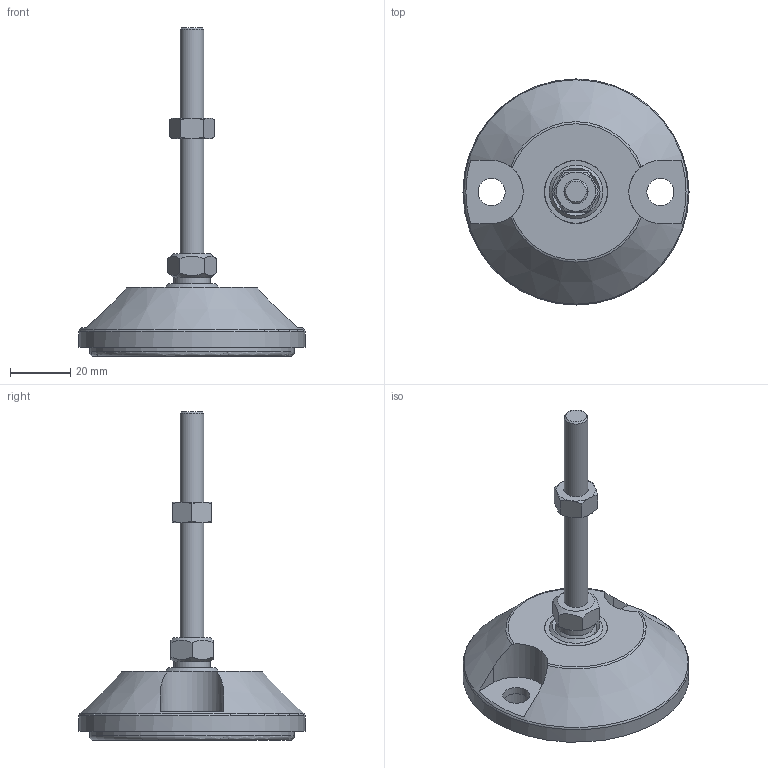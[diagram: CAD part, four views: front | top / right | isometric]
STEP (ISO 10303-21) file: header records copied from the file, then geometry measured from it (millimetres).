
FILE_DESCRIPTION(/* description */ (''),/* implementation_level */ '2;1');
FILE_NAME(/* name */ 'Articulating Anti-slip Levelling Foot - Metal 75mm - M8 - 75mm.step',/* time_stamp */ '2025-10-14T12:47:53+03:00',/* author */ (''),/* organization */ (''),/* preprocessor_version */ 'ST-DEVELOPER v20.1',/* originating_system */ 'Autodesk Translation Framework v14.17.0.0',/* authorisation */ '');
FILE_SCHEMA (('AUTOMOTIVE_DESIGN { 1 0 10303 214 3 1 1 }'));
Length unit declared in the file: millimetre
Products named in the file (8): Articulating Anti-slip Levelling Foot - Metal 75mm - M8 - 75mm; Articulating Levelling Foot Stud - M8 - 75mm; hex nut style 1_am_B18.2.4.1M - Hex nut, Style 1,  M8 x 1.25 --D-N; Articulating Levelling Foot Stud - M8 - 75mm_1; 340-1000A-01_ASM; 340-1001B-01; 340-1003B-01; 340-1002B-01
Assembly tree (7 placements, depth 3):
  Articulating Anti-slip Levelling Foot - Metal 75mm - M8 - 75mm
    Articulating Levelling Foot Stud - M8 - 75mm
      hex nut style 1_am_B18.2.4.1M - Hex nut, Style 1,  M8 x 1.25 --D-N
      Articulating Levelling Foot Stud - M8 - 75mm_1
    340-1000A-01_ASM
      340-1001B-01
      340-1003B-01
      340-1002B-01
Bounding box: 75 x 75 x 109.01 mm (x, y, z)
Volume: 63784.8 mm3; surface area: 31549.3 mm2
Topology: 5 solids, 5 shells, 184 faces, 462 edges, 303 vertices
Faces by surface type: plane 93, cylinder 46, cone 37, torus 4, bspline 3, sphere 1
Full cylindrical faces by diameter (mm): 3.7 x2, 3.996 x1, 6.779 x1, 7 x2, 7.866 x1, 8 x1, 9 x2, 11 x2, 12.166 x1, 15 x2, 15.052 x1, 16 x1, 20 x1, 20.8 x1, 21 x1, 40 x1, 68 x1, 69 x1, 75 x1
Entity records: 6275 total; most frequent: CARTESIAN_POINT 1659, DIRECTION 953, ORIENTED_EDGE 922, EDGE_CURVE 461, AXIS2_PLACEMENT_3D 386, VERTEX_POINT 303, EDGE_LOOP 214, CIRCLE 190
